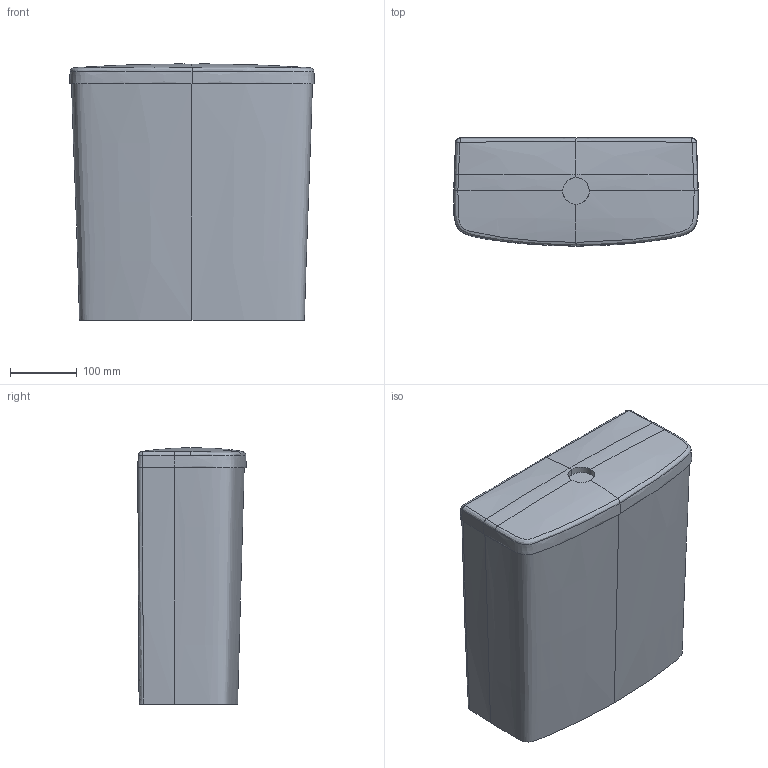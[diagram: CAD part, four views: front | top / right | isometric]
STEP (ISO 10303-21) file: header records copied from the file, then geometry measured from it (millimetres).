
FILE_DESCRIPTION(/* description */ (''),/* implementation_level */ '2;1');
FILE_NAME(/* name */ 'C:\Planerdaten\Export PLA\500.266.01.1\stp\500267.stp',/* time_stamp */ '2020-05-01T05:19:49-07:00',/* author */ ('JANAN'),/* organization */ (''),/* preprocessor_version */ 'ST-DEVELOPER v16.13',/* originating_system */ 'Autodesk Inventor 2018',/* authorisation */ '');
FILE_SCHEMA (('AUTOMOTIVE_DESIGN { 1 0 10303 214 3 1 1 }'));
Length unit declared in the file: millimetre
Products named in the file (1): AP-SPK-a Ge+SnS 2-M 6/3L WAs
Bounding box: 368.27 x 163 x 385.04 mm (x, y, z)
Volume: 19672745.4 mm3; surface area: 466101.8 mm2
Topology: 1 solids, 1 shells, 45 faces, 111 edges, 66 vertices
Faces by surface type: bspline 42, plane 3
Entity records: 7292 total; most frequent: CARTESIAN_POINT 6449, ORIENTED_EDGE 218, EDGE_CURVE 109, B_SPLINE_CURVE_WITH_KNOTS 76, VERTEX_POINT 66, DIRECTION 52, STYLED_ITEM 46, FACE_OUTER_BOUND 45
